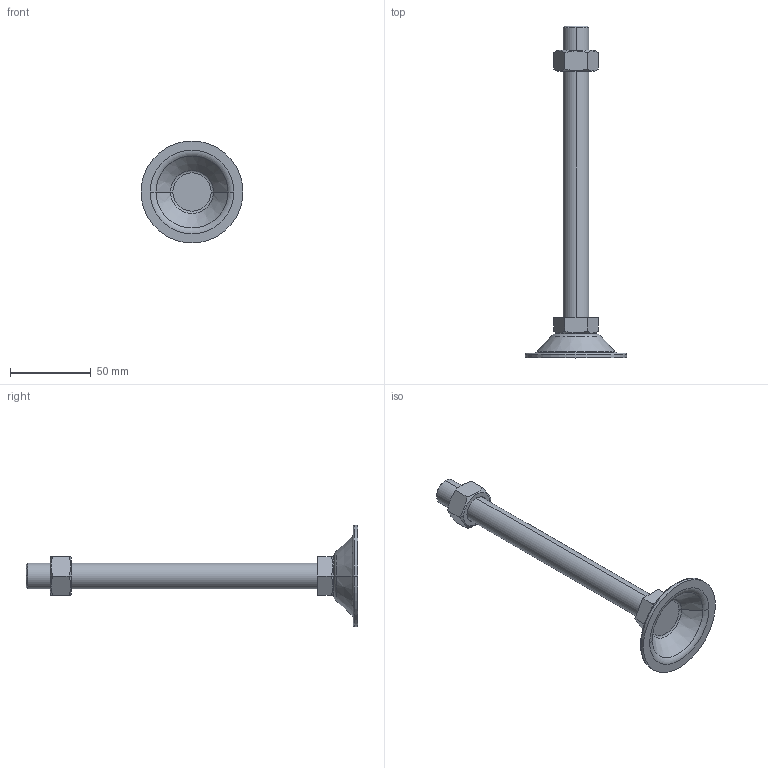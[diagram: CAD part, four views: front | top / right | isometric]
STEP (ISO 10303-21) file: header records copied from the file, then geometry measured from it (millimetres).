
FILE_DESCRIPTION (( 'STEP AP214' ), '1' );
FILE_NAME ('BL63-M16-180.step', '2021-01-06T05:39:02', ( '' ), ( '' ), 'SwSTEP 2.0', 'SolidWorks 2019', '' );
FILE_SCHEMA (( 'AUTOMOTIVE_DESIGN' ));
Length unit declared in the file: millimetre
Products named in the file (1): BL63-M16-180
Bounding box: 63 x 205 x 63 mm (x, y, z)
Volume: 55947.7 mm3; surface area: 20914.4 mm2
Topology: 3 solids, 3 shells, 53 faces, 110 edges, 66 vertices
Faces by surface type: plane 21, cone 16, torus 10, cylinder 6
Entity records: 1618 total; most frequent: CARTESIAN_POINT 428, DIRECTION 252, ORIENTED_EDGE 220, EDGE_CURVE 110, AXIS2_PLACEMENT_3D 106, VERTEX_POINT 66, EDGE_LOOP 58, FACE_OUTER_BOUND 53
